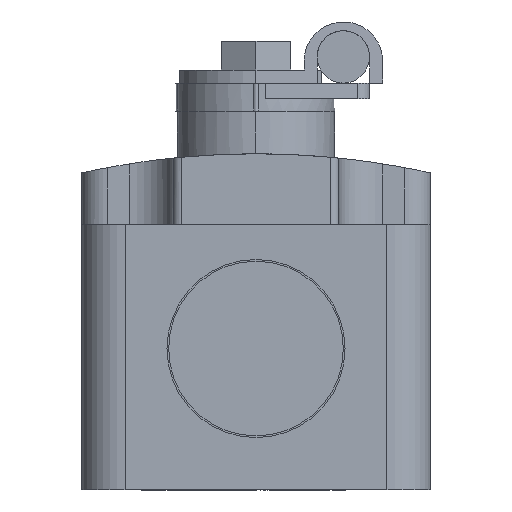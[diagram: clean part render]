
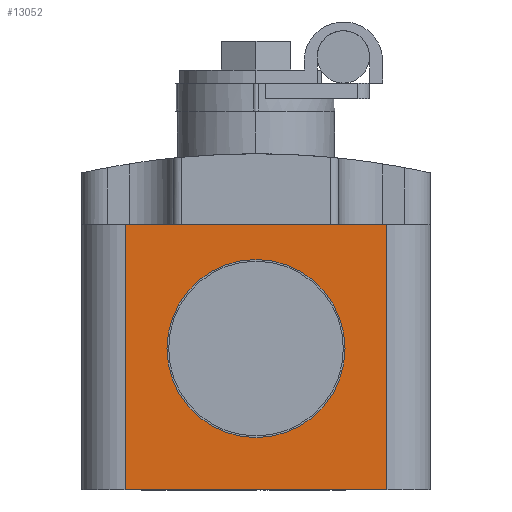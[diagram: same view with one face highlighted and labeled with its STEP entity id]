
A CAD part, front view. The second image highlights one B-rep face of the part: STEP entity #13052.
In plain terms, the highlighted planar face has unit normal (0, -1, 0).
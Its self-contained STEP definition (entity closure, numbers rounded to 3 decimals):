
#1810 = DIRECTION ( 'NONE',  ( 0., 0., -1. ) ) ;
#2304 = VERTEX_POINT ( 'NONE', #22308 ) ;
#3191 = DIRECTION ( 'NONE',  ( 0., 0., 1. ) ) ;
#5245 = DIRECTION ( 'NONE',  ( 0., 0., -1. ) ) ;
#7036 = CARTESIAN_POINT ( 'NONE',  ( 20., -66., 14.2 ) ) ;
#7120 = AXIS2_PLACEMENT_3D ( 'NONE', #27396, #12966, #29818 ) ;
#7293 = LINE ( 'NONE', #17634, #27287 ) ;
#7684 = CARTESIAN_POINT ( 'NONE',  ( -15., -66., -16.2 ) ) ;
#8125 = AXIS2_PLACEMENT_3D ( 'NONE', #28274, #16239, #1810 ) ;
#8322 = LINE ( 'NONE', #26379, #13220 ) ;
#8392 = ORIENTED_EDGE ( 'NONE', *, *, #14076, .F. ) ;
#8548 = EDGE_LOOP ( 'NONE', ( #30030, #24342, #8392, #25322 ) ) ;
#8726 = AXIS2_PLACEMENT_3D ( 'NONE', #27141, #12716, #29556 ) ;
#9013 = PLANE ( 'NONE',  #8125 ) ;
#9702 = CARTESIAN_POINT ( 'NONE',  ( 15., -66., -16.2 ) ) ;
#9953 = FACE_OUTER_BOUND ( 'NONE', #8548, .T. ) ;
#10396 = ORIENTED_EDGE ( 'NONE', *, *, #16971, .F. ) ;
#12716 = DIRECTION ( 'NONE',  ( 0., -1., 0. ) ) ;
#12801 = EDGE_CURVE ( 'NONE', #26262, #2304, #14457, .T. ) ;
#12854 = EDGE_CURVE ( 'NONE', #27246, #27457, #7293, .T. ) ;
#12966 = DIRECTION ( 'NONE',  ( 0., -1., 0. ) ) ;
#13052 = ADVANCED_FACE ( 'NONE', ( #15582, #9953 ), #9013, .T. ) ;
#13220 = VECTOR ( 'NONE', #18974, 1000. ) ;
#13727 = EDGE_CURVE ( 'NONE', #22766, #13916, #20420, .T. ) ;
#13916 = VERTEX_POINT ( 'NONE', #20737 ) ;
#14076 = EDGE_CURVE ( 'NONE', #22766, #27457, #20016, .T. ) ;
#14457 = CIRCLE ( 'NONE', #8726, 10.2 ) ;
#15582 = FACE_BOUND ( 'NONE', #21081, .T. ) ;
#16239 = DIRECTION ( 'NONE',  ( 0., -1., 0. ) ) ;
#16304 = EDGE_CURVE ( 'NONE', #13916, #27246, #8322, .T. ) ;
#16615 = ORIENTED_EDGE ( 'NONE', *, *, #12801, .F. ) ;
#16971 = EDGE_CURVE ( 'NONE', #2304, #26262, #18797, .T. ) ;
#17634 = CARTESIAN_POINT ( 'NONE',  ( 15., -66., -16.2 ) ) ;
#18797 = CIRCLE ( 'NONE', #7120, 10.2 ) ;
#18974 = DIRECTION ( 'NONE',  ( 1., 0., 0. ) ) ;
#20016 = LINE ( 'NONE', #7036, #25737 ) ;
#20420 = LINE ( 'NONE', #7684, #26095 ) ;
#20737 = CARTESIAN_POINT ( 'NONE',  ( -15., -66., -16.2 ) ) ;
#21081 = EDGE_LOOP ( 'NONE', ( #16615, #10396 ) ) ;
#22308 = CARTESIAN_POINT ( 'NONE',  ( 0., -66., 10.2 ) ) ;
#22766 = VERTEX_POINT ( 'NONE', #29473 ) ;
#23707 = CARTESIAN_POINT ( 'NONE',  ( 0., -66., -10.2 ) ) ;
#23916 = DIRECTION ( 'NONE',  ( 1., 0., 0. ) ) ;
#24342 = ORIENTED_EDGE ( 'NONE', *, *, #12854, .T. ) ;
#24969 = CARTESIAN_POINT ( 'NONE',  ( 15., -66., 14.2 ) ) ;
#25322 = ORIENTED_EDGE ( 'NONE', *, *, #13727, .T. ) ;
#25737 = VECTOR ( 'NONE', #23916, 1000. ) ;
#26095 = VECTOR ( 'NONE', #5245, 1000. ) ;
#26262 = VERTEX_POINT ( 'NONE', #23707 ) ;
#26379 = CARTESIAN_POINT ( 'NONE',  ( 20., -66., -16.2 ) ) ;
#27141 = CARTESIAN_POINT ( 'NONE',  ( 0., -66., 0. ) ) ;
#27246 = VERTEX_POINT ( 'NONE', #9702 ) ;
#27287 = VECTOR ( 'NONE', #3191, 1000. ) ;
#27396 = CARTESIAN_POINT ( 'NONE',  ( 0., -66., 0. ) ) ;
#27457 = VERTEX_POINT ( 'NONE', #24969 ) ;
#28274 = CARTESIAN_POINT ( 'NONE',  ( 20., -66., -16.2 ) ) ;
#29473 = CARTESIAN_POINT ( 'NONE',  ( -15., -66., 14.2 ) ) ;
#29556 = DIRECTION ( 'NONE',  ( 0., 0., -1. ) ) ;
#29818 = DIRECTION ( 'NONE',  ( 0., 0., -1. ) ) ;
#30030 = ORIENTED_EDGE ( 'NONE', *, *, #16304, .T. ) ;
